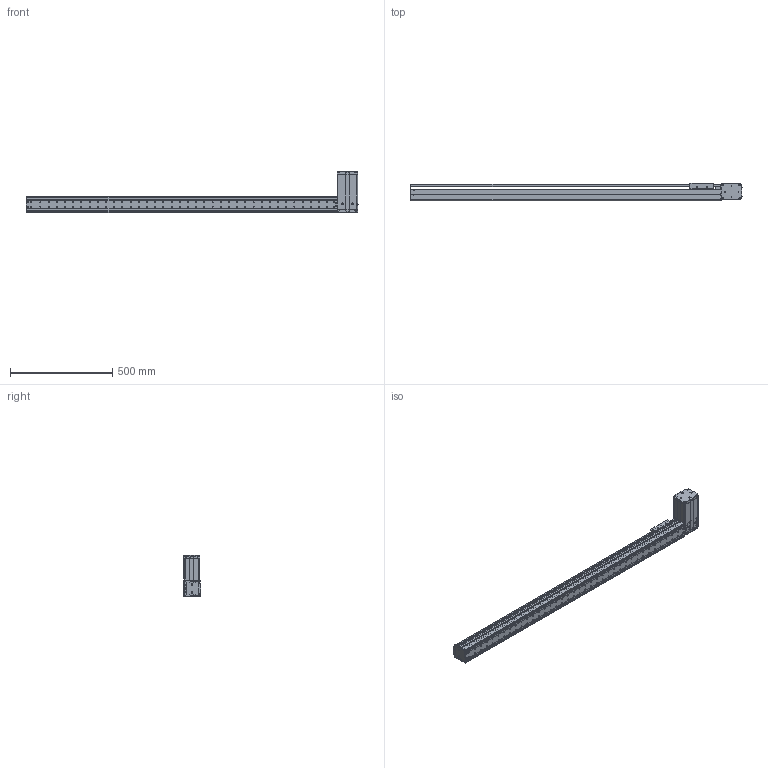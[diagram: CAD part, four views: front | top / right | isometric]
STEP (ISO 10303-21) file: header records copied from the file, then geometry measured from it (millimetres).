
FILE_DESCRIPTION((''),'2;1');
FILE_NAME('BE10_-BR-M_N-D0_IGS_PRT','2017-06-18T',(' '),(''),'PRO/ENGINEER BY PARAMETRIC TECHNOLOGY CORPORATION, 2015030','PRO/ENGINEER BY PARAMETRIC TECHNOLOGY CORPORATION, 2015030','');
FILE_SCHEMA(('CONFIG_CONTROL_DESIGN'));
Products named in the file (1): BE10_-BR-M_N-D0_IGS_PRT
Bounding box: 1620.8 x 85 x 200.22 mm (x, y, z)
Volume: 2281724.7 mm3; surface area: 1541644.3 mm2
Topology: 2 solids, 165 shells, 2265 faces, 6189 edges, 4099 vertices
Faces by surface type: plane 1067, cylinder 1031, cone 111, sphere 28, torus 25, bspline 3
Entity records: 73877 total; most frequent: CARTESIAN_POINT 15134, DIRECTION 12491, ORIENTED_EDGE 11682, EDGE_CURVE 6127, AXIS2_PLACEMENT_3D 4535, VERTEX_POINT 4099, VECTOR 3421, LINE 3421
